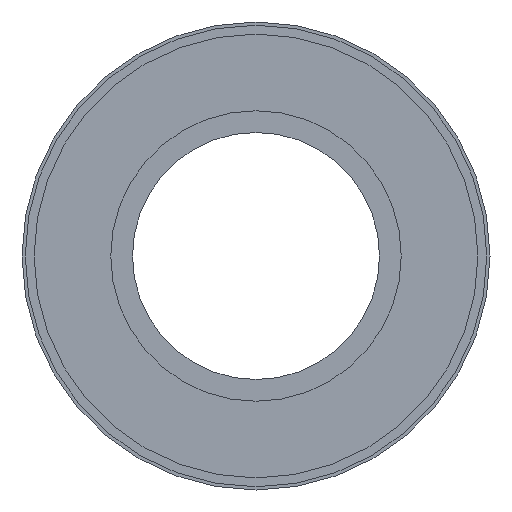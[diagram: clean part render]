
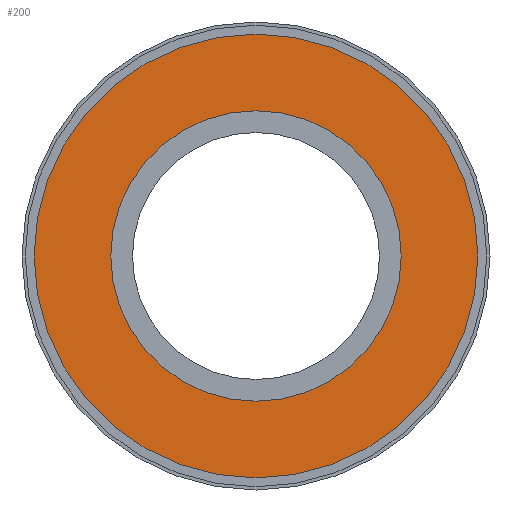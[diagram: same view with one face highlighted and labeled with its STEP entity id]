
A CAD part, front view. The second image highlights one B-rep face of the part: STEP entity #200.
In plain terms, the highlighted planar face has unit normal (0, -1, 0).
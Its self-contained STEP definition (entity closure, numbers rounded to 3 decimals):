
#39 = FACE_BOUND ( 'NONE', #315, .T. ) ;
#42 = VERTEX_POINT ( 'NONE', #215 ) ;
#118 = DIRECTION ( 'NONE',  ( 0., 0., -1. ) ) ;
#120 = ORIENTED_EDGE ( 'NONE', *, *, #318, .T. ) ;
#144 = CARTESIAN_POINT ( 'NONE',  ( 0., 38., 0. ) ) ;
#152 = CARTESIAN_POINT ( 'NONE',  ( 0., 38., -137.5 ) ) ;
#197 = VERTEX_POINT ( 'NONE', #1146 ) ;
#200 = ADVANCED_FACE ( 'NONE', ( #1119, #39 ), #468, .T. ) ;
#215 = CARTESIAN_POINT ( 'NONE',  ( 0., 38., -137.5 ) ) ;
#230 = VERTEX_POINT ( 'NONE', #628 ) ;
#315 = EDGE_LOOP ( 'NONE', ( #754, #1132 ) ) ;
#318 = EDGE_CURVE ( 'NONE', #42, #197, #325, .T. ) ;
#325 = CIRCLE ( 'NONE', #513, 137.5 ) ;
#353 = ORIENTED_EDGE ( 'NONE', *, *, #704, .T. ) ;
#400 = DIRECTION ( 'NONE',  ( 0., -1., 0. ) ) ;
#468 = PLANE ( 'NONE',  #1375 ) ;
#511 = CARTESIAN_POINT ( 'NONE',  ( 0., 38., 0. ) ) ;
#513 = AXIS2_PLACEMENT_3D ( 'NONE', #963, #846, #1180 ) ;
#581 = DIRECTION ( 'NONE',  ( 0., -1., 0. ) ) ;
#607 = EDGE_LOOP ( 'NONE', ( #120, #353 ) ) ;
#621 = EDGE_CURVE ( 'NONE', #958, #230, #1404, .T. ) ;
#628 = CARTESIAN_POINT ( 'NONE',  ( 0., 38., 79.55 ) ) ;
#648 = DIRECTION ( 'NONE',  ( 0., -1., 0. ) ) ;
#704 = EDGE_CURVE ( 'NONE', #197, #42, #1003, .T. ) ;
#706 = DIRECTION ( 'NONE',  ( 0., -1., 0. ) ) ;
#754 = ORIENTED_EDGE ( 'NONE', *, *, #621, .F. ) ;
#780 = AXIS2_PLACEMENT_3D ( 'NONE', #511, #648, #118 ) ;
#846 = DIRECTION ( 'NONE',  ( 0., -1., 0. ) ) ;
#849 = CARTESIAN_POINT ( 'NONE',  ( 0., 38., 0. ) ) ;
#853 = AXIS2_PLACEMENT_3D ( 'NONE', #144, #581, #1366 ) ;
#893 = CIRCLE ( 'NONE', #853, 79.55 ) ;
#924 = DIRECTION ( 'NONE',  ( 0., 0., -1. ) ) ;
#958 = VERTEX_POINT ( 'NONE', #997 ) ;
#963 = CARTESIAN_POINT ( 'NONE',  ( 0., 38., 0. ) ) ;
#997 = CARTESIAN_POINT ( 'NONE',  ( 0., 38., -79.55 ) ) ;
#1003 = CIRCLE ( 'NONE', #780, 137.5 ) ;
#1119 = FACE_OUTER_BOUND ( 'NONE', #607, .T. ) ;
#1132 = ORIENTED_EDGE ( 'NONE', *, *, #1267, .F. ) ;
#1146 = CARTESIAN_POINT ( 'NONE',  ( 0., 38., 137.5 ) ) ;
#1180 = DIRECTION ( 'NONE',  ( 0., 0., -1. ) ) ;
#1267 = EDGE_CURVE ( 'NONE', #230, #958, #893, .T. ) ;
#1298 = AXIS2_PLACEMENT_3D ( 'NONE', #849, #400, #1386 ) ;
#1366 = DIRECTION ( 'NONE',  ( 0., 0., -1. ) ) ;
#1375 = AXIS2_PLACEMENT_3D ( 'NONE', #152, #706, #924 ) ;
#1386 = DIRECTION ( 'NONE',  ( 0., 0., -1. ) ) ;
#1404 = CIRCLE ( 'NONE', #1298, 79.55 ) ;
